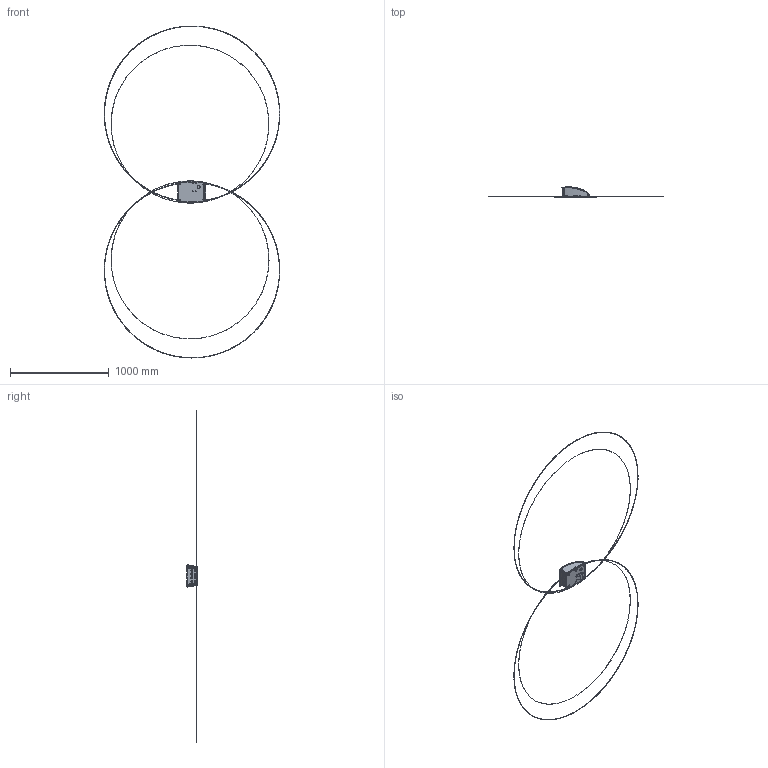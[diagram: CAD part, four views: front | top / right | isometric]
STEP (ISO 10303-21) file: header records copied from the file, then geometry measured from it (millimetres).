
FILE_DESCRIPTION((''),'2;1');
FILE_NAME('1','2014-06-05T',('tony'),(''),'PRO/ENGINEER BY PARAMETRIC TECHNOLOGY CORPORATION, 2008090','PRO/ENGINEER BY PARAMETRIC TECHNOLOGY CORPORATION, 2008090','');
FILE_SCHEMA(('CONFIG_CONTROL_DESIGN'));
Products named in the file (1): 1
Bounding box: 1777.14 x 105.57 x 3360.76 mm (x, y, z)
Surface area: 1024434.2 mm2 (no closed solid volume)
Topology: 0 solids, 0 shells, 1378 faces, 7128 edges, 7069 vertices
Faces by surface type: bspline 1311, torus 53, sphere 14
Entity records: 120516 total; most frequent: CARTESIAN_POINT 60572, DIRECTION 8810, TRIMMED_CURVE 7625, DEFINITIONAL_REPRESENTATION 7006, PCURVE 7006, COMPOSITE_CURVE_SEGMENT 7006, VECTOR 6574, LINE 6574
